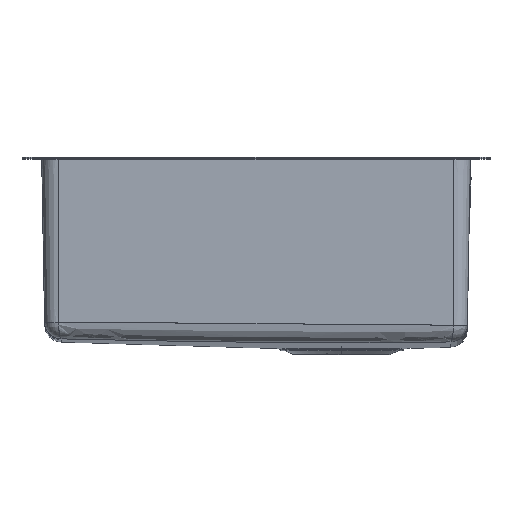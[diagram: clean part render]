
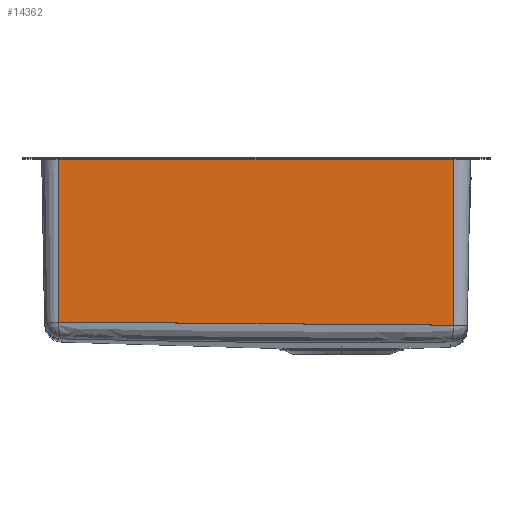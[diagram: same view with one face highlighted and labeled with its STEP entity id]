
A CAD part, top view. The second image highlights one B-rep face of the part: STEP entity #14362.
In plain terms, the highlighted planar face has unit normal (0, -0.018, 1).
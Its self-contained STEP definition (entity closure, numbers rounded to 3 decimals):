
#30 = EDGE_CURVE ( 'NONE', #9829, #5592, #11989, .T. ) ;
#59 = DIRECTION ( 'NONE',  ( 0., -0.017, 1. ) ) ;
#622 = CARTESIAN_POINT ( 'NONE',  ( -185.5, -154.863, 248.797 ) ) ;
#635 = AXIS2_PLACEMENT_3D ( 'NONE', #10145, #59, #4555 ) ;
#689 = CARTESIAN_POINT ( 'NONE',  ( -62.587, -157.281, 248.755 ) ) ;
#1164 = LINE ( 'NONE', #2403, #5223 ) ;
#1916 = VECTOR ( 'NONE', #6185, 1000. ) ;
#2403 = CARTESIAN_POINT ( 'NONE',  ( -185.5, 0., 251.5 ) ) ;
#2759 = CARTESIAN_POINT ( 'NONE',  ( 185.5, -157.782, 248.746 ) ) ;
#3237 = ORIENTED_EDGE ( 'NONE', *, *, #6428, .T. ) ;
#3662 = ORIENTED_EDGE ( 'NONE', *, *, #30, .F. ) ;
#3954 = CARTESIAN_POINT ( 'NONE',  ( -154.958, -155.546, 248.785 ) ) ;
#4025 = ORIENTED_EDGE ( 'NONE', *, *, #6601, .T. ) ;
#4555 = DIRECTION ( 'NONE',  ( 0., -1., -0.017 ) ) ;
#4978 = CARTESIAN_POINT ( 'NONE',  ( 62.563, -158.445, 248.734 ) ) ;
#5117 = CARTESIAN_POINT ( 'NONE',  ( -124.415, -156.18, 248.774 ) ) ;
#5223 = VECTOR ( 'NONE', #12199, 1000. ) ;
#5397 = CARTESIAN_POINT ( 'NONE',  ( -185.5, -1.983, 251.465 ) ) ;
#5592 = VERTEX_POINT ( 'NONE', #622 ) ;
#6152 = CARTESIAN_POINT ( 'NONE',  ( -185.5, -1.983, 251.465 ) ) ;
#6185 = DIRECTION ( 'NONE',  ( 0., 1., 0.017 ) ) ;
#6428 = EDGE_CURVE ( 'NONE', #10917, #5592, #1164, .T. ) ;
#6601 = EDGE_CURVE ( 'NONE', #12399, #10917, #10574, .T. ) ;
#7120 = CARTESIAN_POINT ( 'NONE',  ( 185.5, -1.983, 251.465 ) ) ;
#7284 = LINE ( 'NONE', #8318, #1916 ) ;
#7290 = EDGE_CURVE ( 'NONE', #9829, #12399, #7284, .T. ) ;
#7969 = EDGE_LOOP ( 'NONE', ( #3237, #3662, #10582, #4025 ) ) ;
#8318 = CARTESIAN_POINT ( 'NONE',  ( 185.5, 0., 251.5 ) ) ;
#8886 = PLANE ( 'NONE',  #635 ) ;
#9182 = CARTESIAN_POINT ( 'NONE',  ( 185.5, -157.782, 248.746 ) ) ;
#9456 = CARTESIAN_POINT ( 'NONE',  ( 31.274, -158.312, 248.737 ) ) ;
#9528 = CARTESIAN_POINT ( 'NONE',  ( 124.4, -158.389, 248.735 ) ) ;
#9672 = VECTOR ( 'NONE', #10642, 1000. ) ;
#9829 = VERTEX_POINT ( 'NONE', #9182 ) ;
#10145 = CARTESIAN_POINT ( 'NONE',  ( -185.5, 0., 251.5 ) ) ;
#10574 = LINE ( 'NONE', #6152, #9672 ) ;
#10582 = ORIENTED_EDGE ( 'NONE', *, *, #7290, .T. ) ;
#10642 = DIRECTION ( 'NONE',  ( -1., 0., 0. ) ) ;
#10705 = CARTESIAN_POINT ( 'NONE',  ( 154.949, -158.155, 248.739 ) ) ;
#10917 = VERTEX_POINT ( 'NONE', #5397 ) ;
#11597 = CARTESIAN_POINT ( 'NONE',  ( -31.301, -157.743, 248.747 ) ) ;
#11804 = CARTESIAN_POINT ( 'NONE',  ( 78.207, -158.466, 248.734 ) ) ;
#11989 =( BOUNDED_CURVE ( )  B_SPLINE_CURVE ( 3, ( #2759, #10705, #9528, #11804, #4978, #9456, #13941, #11597, #689, #5117, #3954, #14087 ),
 .UNSPECIFIED., .F., .T. ) 
 B_SPLINE_CURVE_WITH_KNOTS ( ( 4, 2, 2, 2, 2, 4 ),
 ( 0., 0.247, 0.374, 0.5, 0.753, 1. ),
 .UNSPECIFIED. ) 
 CURVE ( )  GEOMETRIC_REPRESENTATION_ITEM ( )  RATIONAL_B_SPLINE_CURVE ( ( 1., 1., 1., 1., 1., 1., 1., 1., 1., 1., 1., 1. ) ) 
 REPRESENTATION_ITEM ( '' )  );
#12199 = DIRECTION ( 'NONE',  ( 0., -1., -0.017 ) ) ;
#12399 = VERTEX_POINT ( 'NONE', #7120 ) ;
#13371 = FACE_OUTER_BOUND ( 'NONE', #7969, .T. ) ;
#13941 = CARTESIAN_POINT ( 'NONE',  ( 15.63, -158.2, 248.739 ) ) ;
#14087 = CARTESIAN_POINT ( 'NONE',  ( -185.5, -154.863, 248.797 ) ) ;
#14362 = ADVANCED_FACE ( 'NONE', ( #13371 ), #8886, .T. ) ;
